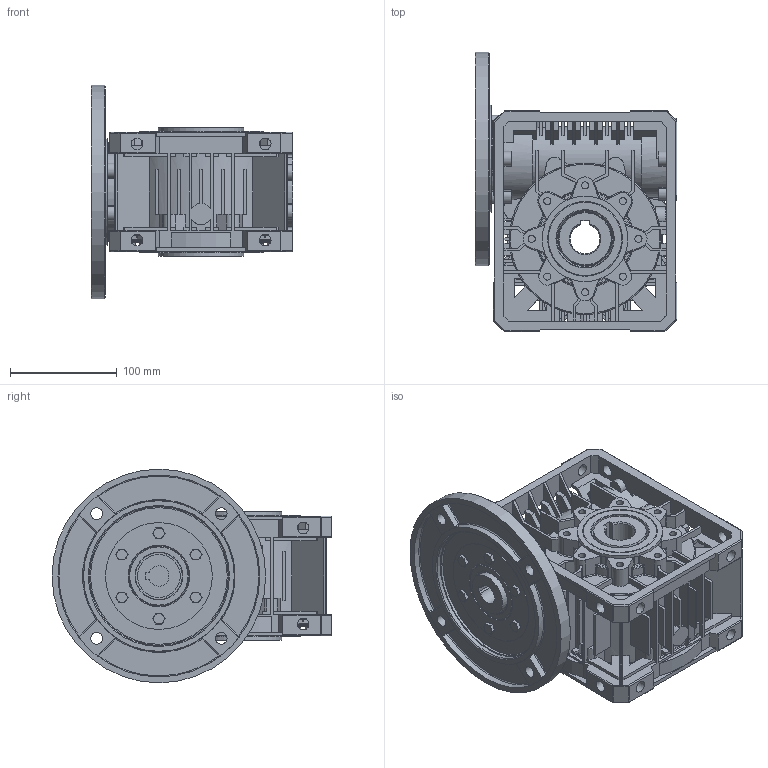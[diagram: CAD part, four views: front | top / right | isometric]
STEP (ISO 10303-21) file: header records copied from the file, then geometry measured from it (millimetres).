
FILE_DESCRIPTION((''),'2;1');
FILE_NAME('C:\Users\m.piscopiello.SITIRIDUTTORI\Desktop\FIGURINI VSF\FIGURINI U-MU 75\MU 75 PAM 80 B5.stp','2016-03-03T16:48:46',('m.piscopiello'),(''),'Autodesk Inventor 2012','Autodesk Inventor 2012','');
FILE_SCHEMA(('CONFIG_CONTROL_DESIGN'));
Length unit declared in the file: millimetre
Products named in the file (1): 3F021109
Bounding box: 189 x 262 x 200 mm (x, y, z)
Volume: 1385912.6 mm3; surface area: 523278 mm2
Topology: 29 solids, 29 shells, 2213 faces, 5807 edges, 3539 vertices
Faces by surface type: plane 1097, cylinder 605, torus 233, sphere 105, bspline 95, cone 78
Full cylindrical faces by diameter (mm): 4.917 x12, 6 x12, 6.5 x6, 6.647 x22, 8 x16, 8.5 x8, 11 x18, 13 x8, 40 x2, 43.75 x1, 50 x3, 53.75 x2, 54 x1, 55.438 x2, 56 x2, 58.875 x1, 62 x2, 65.4 x1, 66.6 x2, 68 x2, 70 x4, 80 x3, 100 x2, 128 x1, 130 x1, 134 x1, 141 x1, 189 x1, 200 x1
Entity records: 68562 total; most frequent: CARTESIAN_POINT 15150, DIRECTION 11309, ORIENTED_EDGE 10842, EDGE_CURVE 5421, AXIS2_PLACEMENT_3D 4134, VERTEX_POINT 3424, VECTOR 3041, LINE 3041
